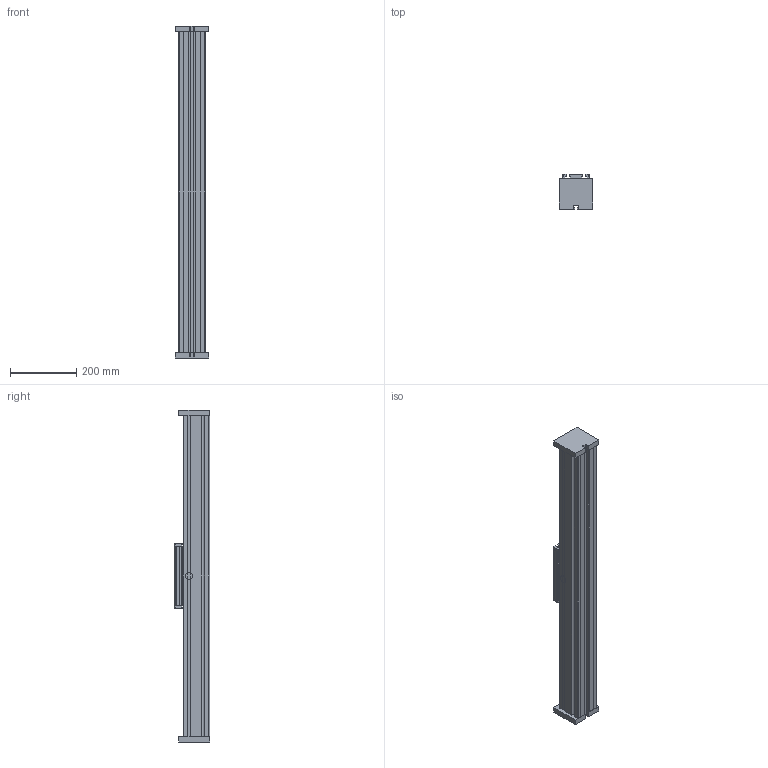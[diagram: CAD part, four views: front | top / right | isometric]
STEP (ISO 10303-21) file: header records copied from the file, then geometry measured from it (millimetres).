
FILE_DESCRIPTION (( 'STEP AP214' ), '1' );
FILE_NAME ('QLR80.STEP', '2022-06-29T11:19:48', ( '' ), ( '' ), 'SwSTEP 2.0', 'SolidWorks 2020', '' );
FILE_SCHEMA (( 'AUTOMOTIVE_DESIGN' ));
Length unit declared in the file: millimetre
Products named in the file (4): end plate^QLR80; profile^QLR80_standard; QLR80; carriage^QLR80_carriage version 0
Assembly tree (4 placements, depth 2):
  QLR80
    profile^QLR80_standard
    carriage^QLR80_carriage version 0
    end plate^QLR80  x2
Bounding box: 100 x 106 x 1000 mm (x, y, z)
Volume: 5145024.3 mm3; surface area: 623323.6 mm2
Topology: 8 solids, 8 shells, 201 faces, 539 edges, 354 vertices
Faces by surface type: plane 150, cylinder 43, torus 8
Entity records: 6118 total; most frequent: CARTESIAN_POINT 1039, ORIENTED_EDGE 1018, DIRECTION 991, EDGE_CURVE 509, LINE 419, VECTOR 419, VERTEX_POINT 334, AXIS2_PLACEMENT_3D 286
